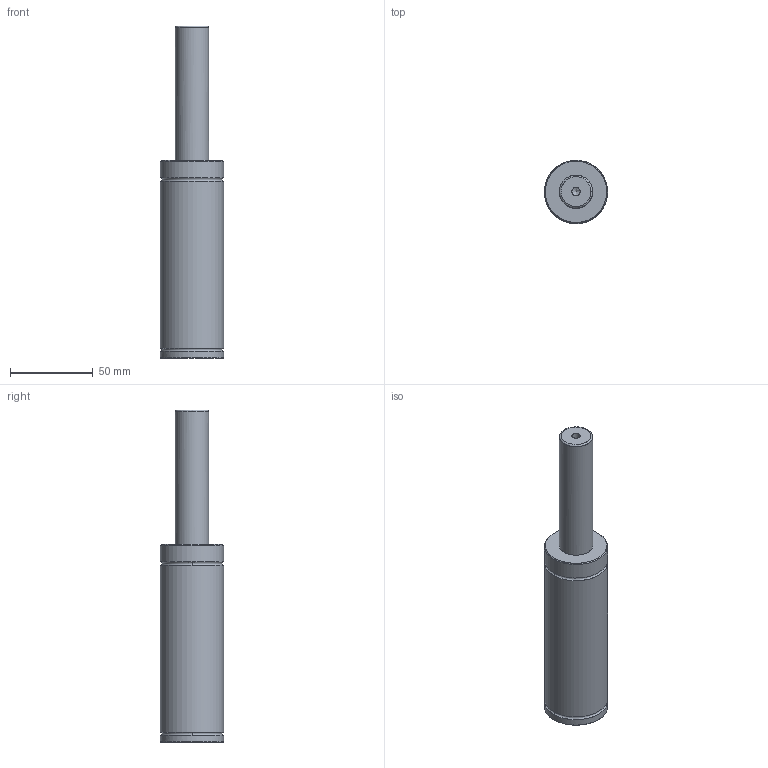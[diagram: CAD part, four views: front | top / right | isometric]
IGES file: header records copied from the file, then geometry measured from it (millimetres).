
Start section: VISI Layer Mapping Iges    VISI  0      LAYER_EMPTY  1      wwww  7      W_PD700  8      S_PD700  10     W_PD1000  11     S_PD1000  13     W_PD2000  14     S_PD2000  16     W_PD3000  17     S_PD3000  19     W_PD4000  20     S_PD4000  22     W_PD7000  23     S_PD7000  28     W_350  29     MS-350  30     MC-350  31     MP-350  32     MB-350  33     MH-350  34     MK-350  35     MPL-350  39     W_500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
Global section: file name: E:\だ錶臢\だ錶臢3D\SYLINDER\PT Series\PT500\PT500\PT500-80.igs; native system: VISI 16.0; preprocessor: 2.0; author: 11; organization: 0; date: 500.; units: mil
Bounding box: 38 x 38 x 200 mm (x, y, z)
Surface area: 22631.4 mm2 (no closed solid volume)
Topology: 0 solids, 0 shells, 19 faces, 221 edges, 196 vertices
Faces by surface type: bspline 19
